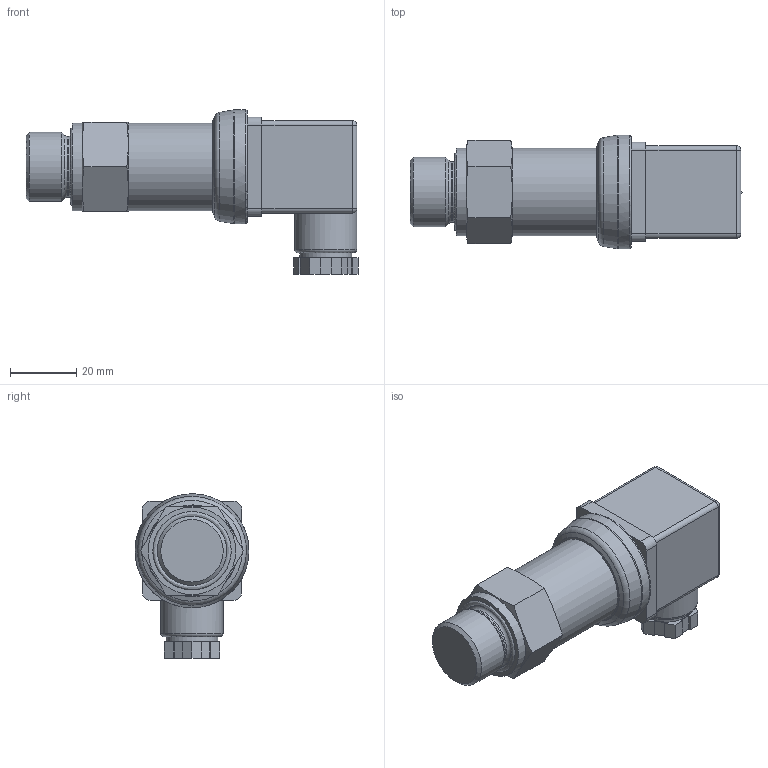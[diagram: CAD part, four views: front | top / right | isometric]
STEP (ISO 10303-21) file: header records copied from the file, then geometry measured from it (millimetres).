
FILE_DESCRIPTION(/* description */ (''),/* implementation_level */ '2;1');
FILE_NAME(/* name */ 'W:\Veřejné dokumenty\3D modely výrobků\DMP331_G1-2_DIN3852_ISO4400_standard.stp',/* time_stamp */ '2015-04-20T10:29:25+02:00',/* author */ ('CZ1067'),/* organization */ (''),/* preprocessor_version */ 'ST-DEVELOPER v15.2',/* originating_system */ 'Autodesk Inventor 2014',/* authorisation */ '');
FILE_SCHEMA (('AUTOMOTIVE_DESIGN { 1 0 10303 214 3 1 1 }'));
Length unit declared in the file: millimetre
Products named in the file (1): DMP331_G1-2_DIN3852_ISO4400_standard
Bounding box: 100.46 x 34.48 x 49.75 mm (x, y, z)
Volume: 69604.7 mm3; surface area: 12486.5 mm2
Topology: 1 solids, 1 shells, 99 faces, 242 edges, 147 vertices
Faces by surface type: plane 61, cylinder 20, torus 7, cone 6, sphere 4, bspline 1
Full cylindrical faces by diameter (mm): 15.7 x1, 18.4 x1, 18.8 x1, 20.955 x1, 26.5 x2, 34.5 x1
Entity records: 2972 total; most frequent: CARTESIAN_POINT 647, DIRECTION 452, ORIENTED_EDGE 428, EDGE_CURVE 214, AXIS2_PLACEMENT_3D 155, VERTEX_POINT 143, LINE 142, VECTOR 142
